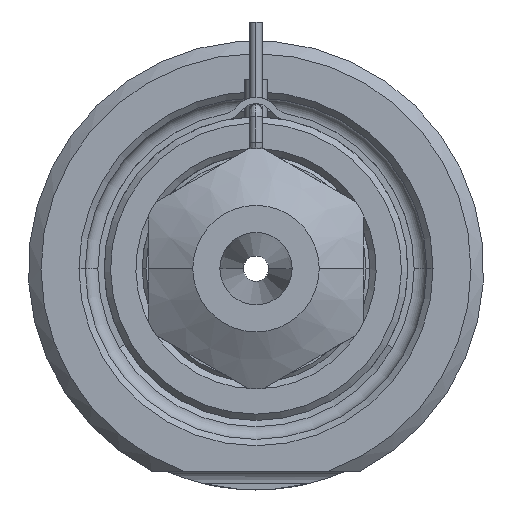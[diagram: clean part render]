
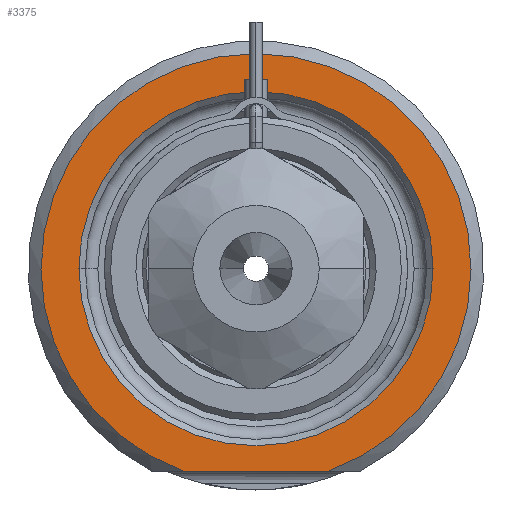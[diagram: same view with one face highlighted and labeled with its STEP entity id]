
A CAD part, front view. The second image highlights one B-rep face of the part: STEP entity #3375.
In plain terms, the highlighted planar face has unit normal (0, -1, 0).
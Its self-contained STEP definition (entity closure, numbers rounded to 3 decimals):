
#682=DIRECTION('',(1.,0.,0.));
#683=VECTOR('',#682,11.489);
#684=CARTESIAN_POINT('',(-5.745,0.,-16.));
#685=LINE('',#684,#683);
#686=CARTESIAN_POINT('',(0.,0.,0.));
#687=DIRECTION('',(0.,1.,0.));
#688=DIRECTION('',(-1.,0.,0.));
#689=AXIS2_PLACEMENT_3D('',#686,#687,#688);
#691=CARTESIAN_POINT('',(0.,0.,0.));
#692=DIRECTION('',(0.,1.,0.));
#693=DIRECTION('',(1.,0.,0.));
#694=AXIS2_PLACEMENT_3D('',#691,#692,#693);
#798=CARTESIAN_POINT('',(0.,0.,0.));
#799=DIRECTION('',(0.,-1.,0.));
#800=DIRECTION('',(0.338,0.,-0.941));
#801=AXIS2_PLACEMENT_3D('',#798,#799,#800);
#2165=CARTESIAN_POINT('',(-14.,0.,0.));
#2166=CARTESIAN_POINT('',(14.,0.,0.));
#2167=VERTEX_POINT('',#2165);
#2168=VERTEX_POINT('',#2166);
#2205=CARTESIAN_POINT('',(-5.745,0.,-16.));
#2206=CARTESIAN_POINT('',(5.745,0.,-16.));
#2207=VERTEX_POINT('',#2205);
#2208=VERTEX_POINT('',#2206);
#3359=CARTESIAN_POINT('',(0.,0.,0.));
#3360=DIRECTION('',(0.,-1.,0.));
#3361=DIRECTION('',(1.,0.,0.));
#3362=AXIS2_PLACEMENT_3D('',#3359,#3360,#3361);
#3363=PLANE('',#3362);
#3365=ORIENTED_EDGE('',*,*,#3364,.F.);
#3367=ORIENTED_EDGE('',*,*,#3366,.F.);
#3368=EDGE_LOOP('',(#3365,#3367));
#3369=FACE_OUTER_BOUND('',#3368,.F.);
#3371=ORIENTED_EDGE('',*,*,#3370,.F.);
#3372=ORIENTED_EDGE('',*,*,#3349,.F.);
#3373=EDGE_LOOP('',(#3371,#3372));
#3374=FACE_BOUND('',#3373,.F.);
#3375=ADVANCED_FACE('',(#3369,#3374),#3363,.T.);
#690=CIRCLE('',#689,14.);
#695=CIRCLE('',#694,14.);
#802=CIRCLE('',#801,17.);
#3349=EDGE_CURVE('',#2168,#2167,#695,.T.);
#3364=EDGE_CURVE('',#2207,#2208,#685,.T.);
#3366=EDGE_CURVE('',#2208,#2207,#802,.T.);
#3370=EDGE_CURVE('',#2167,#2168,#690,.T.);
